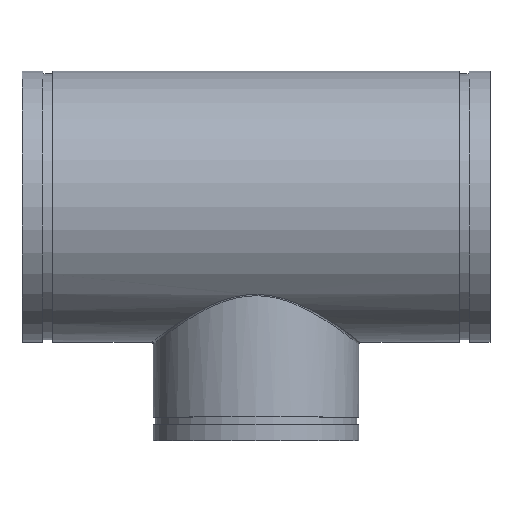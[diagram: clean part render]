
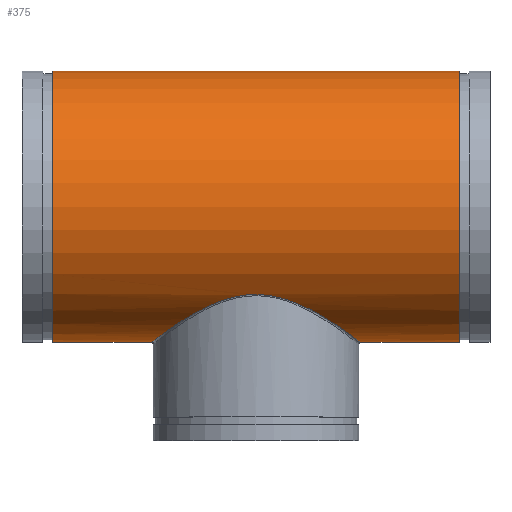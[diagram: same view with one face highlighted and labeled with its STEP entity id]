
A CAD part, top view. The second image highlights one B-rep face of the part: STEP entity #375.
In plain terms, the highlighted cylindrical face has radius 220.98 mm (diameter 441.96 mm), a full revolution.
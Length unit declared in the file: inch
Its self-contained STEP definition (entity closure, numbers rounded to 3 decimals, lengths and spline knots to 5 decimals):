
#54=FACE_BOUND('',#119,.T.);
#65=LINE('',#896,#76);
#76=VECTOR('',#483,8.7);
#87=CYLINDRICAL_SURFACE('',#415,8.7);
#98=FACE_OUTER_BOUND('',#118,.T.);
#118=EDGE_LOOP('',(#266,#267,#268,#269));
#119=EDGE_LOOP('',(#270));
#150=B_SPLINE_CURVE_WITH_KNOTS('',3,(#853,#854,#855,#856,#857,#858,#859,
#860,#861,#862,#863,#864,#865,#866,#867,#868,#869,#870,#871,#872,#873,#874,
#875,#876,#877,#878,#879,#880,#881,#882,#883,#884,#885,#886,#887,#888,#889,
#890,#891),.UNSPECIFIED.,.T.,.F.,(4,1,1,1,1,1,1,1,1,1,1,1,1,1,1,1,1,1,1,
1,1,1,1,1,1,1,1,1,1,1,1,1,1,1,1,1,4),(-107.14196,-105.22871,
-103.31546,-99.48896,-95.66247,-91.83597,
-86.73397,-84.18297,-81.63197,-79.08097,
-76.52997,-73.97897,-71.42797,-66.32598,
-61.22398,-58.67298,-56.12198,-53.57098,
-51.01998,-48.46898,-45.91798,-43.36698,
-40.81599,-35.71399,-30.61199,-29.97424,
-29.33649,-28.06099,-25.50999,-22.95899,
-20.40799,-15.30599,-11.4795,-7.653,
-3.8265,-1.91325,0.),.UNSPECIFIED.);
#154=CIRCLE('',#416,8.7);
#155=CIRCLE('',#417,8.7);
#182=VERTEX_POINT('',#806);
#185=VERTEX_POINT('',#893);
#186=VERTEX_POINT('',#895);
#219=EDGE_CURVE('',#182,#182,#150,.T.);
#220=EDGE_CURVE('',#185,#185,#154,.T.);
#221=EDGE_CURVE('',#185,#186,#65,.T.);
#222=EDGE_CURVE('',#186,#186,#155,.T.);
#266=ORIENTED_EDGE('',*,*,#220,.T.);
#267=ORIENTED_EDGE('',*,*,#221,.T.);
#268=ORIENTED_EDGE('',*,*,#222,.T.);
#269=ORIENTED_EDGE('',*,*,#221,.F.);
#270=ORIENTED_EDGE('',*,*,#219,.F.);
#375=ADVANCED_FACE('',(#98,#54),#87,.T.);
#415=AXIS2_PLACEMENT_3D('',#892,#479,#480);
#416=AXIS2_PLACEMENT_3D('',#894,#481,#482);
#417=AXIS2_PLACEMENT_3D('',#897,#484,#485);
#479=DIRECTION('center_axis',(-1.,0.,0.));
#480=DIRECTION('ref_axis',(0.,-1.,0.));
#481=DIRECTION('center_axis',(1.,0.,0.));
#482=DIRECTION('ref_axis',(0.,-1.,0.));
#483=DIRECTION('',(1.,0.,0.));
#484=DIRECTION('center_axis',(-1.,0.,0.));
#485=DIRECTION('ref_axis',(0.,-1.,0.));
#806=CARTESIAN_POINT('',(0.,-5.63351,-6.62975));
#853=CARTESIAN_POINT('Ctrl Pts',(0.,-5.63351,
-6.62975));
#854=CARTESIAN_POINT('Ctrl Pts',(0.26448,-5.63351,-6.62975));
#855=CARTESIAN_POINT('Ctrl Pts',(0.79314,-5.67017,-6.59887));
#856=CARTESIAN_POINT('Ctrl Pts',(1.81808,-5.87757,-6.41804));
#857=CARTESIAN_POINT('Ctrl Pts',(2.99475,-6.32623,-5.99446));
#858=CARTESIAN_POINT('Ctrl Pts',(4.21708,-6.98289,-5.22834));
#859=CARTESIAN_POINT('Ctrl Pts',(5.36357,-7.7129,-4.11623));
#860=CARTESIAN_POINT('Ctrl Pts',(6.14052,-8.26689,-2.84656));
#861=CARTESIAN_POINT('Ctrl Pts',(6.56621,-8.58074,-1.55133));
#862=CARTESIAN_POINT('Ctrl Pts',(6.73178,-8.70515,-0.52422));
#863=CARTESIAN_POINT('Ctrl Pts',(6.73199,-8.70521,0.524));
#864=CARTESIAN_POINT('Ctrl Pts',(6.56595,-8.58068,1.55161));
#865=CARTESIAN_POINT('Ctrl Pts',(6.24745,-8.34552,2.52194));
#866=CARTESIAN_POINT('Ctrl Pts',(5.64362,-7.91216,3.70842));
#867=CARTESIAN_POINT('Ctrl Pts',(4.60808,-7.21142,4.95051));
#868=CARTESIAN_POINT('Ctrl Pts',(3.28343,-6.46151,5.84767));
#869=CARTESIAN_POINT('Ctrl Pts',(2.05764,-5.96526,6.33802));
#870=CARTESIAN_POINT('Ctrl Pts',(1.05761,-5.69983,6.5742));
#871=CARTESIAN_POINT('Ctrl Pts',(0.00003,-5.60019,
6.65759));
#872=CARTESIAN_POINT('Ctrl Pts',(-1.05758,-5.69971,6.57429));
#873=CARTESIAN_POINT('Ctrl Pts',(-2.05764,-5.96554,6.33782));
#874=CARTESIAN_POINT('Ctrl Pts',(-2.9768,-6.3368,5.97072));
#875=CARTESIAN_POINT('Ctrl Pts',(-3.81321,-6.76214,5.48846));
#876=CARTESIAN_POINT('Ctrl Pts',(-4.81498,-7.35067,4.70249));
#877=CARTESIAN_POINT('Ctrl Pts',(-5.85105,-8.05322,3.46022));
#878=CARTESIAN_POINT('Ctrl Pts',(-6.41222,-8.46677,2.13055));
#879=CARTESIAN_POINT('Ctrl Pts',(-6.59792,-8.60489,1.29107));
#880=CARTESIAN_POINT('Ctrl Pts',(-6.65936,-8.65076,0.95187));
#881=CARTESIAN_POINT('Ctrl Pts',(-6.73189,-8.70513,0.34943));
#882=CARTESIAN_POINT('Ctrl Pts',(-6.73184,-8.70521,-0.52412));
#883=CARTESIAN_POINT('Ctrl Pts',(-6.56619,-8.58074,-1.55128));
#884=CARTESIAN_POINT('Ctrl Pts',(-6.14058,-8.26693,-2.84645));
#885=CARTESIAN_POINT('Ctrl Pts',(-5.36364,-7.71292,-4.1161));
#886=CARTESIAN_POINT('Ctrl Pts',(-4.21714,-6.98294,-5.22831));
#887=CARTESIAN_POINT('Ctrl Pts',(-2.99478,-6.32623,-5.99444));
#888=CARTESIAN_POINT('Ctrl Pts',(-1.81815,-5.87759,-6.41803));
#889=CARTESIAN_POINT('Ctrl Pts',(-0.79311,-5.67016,-6.59887));
#890=CARTESIAN_POINT('Ctrl Pts',(-0.26448,-5.63351,-6.62975));
#891=CARTESIAN_POINT('Ctrl Pts',(0.,-5.63351,
-6.62975));
#892=CARTESIAN_POINT('Origin',(15.,0.,0.));
#893=CARTESIAN_POINT('',(-13.035,8.7,0.));
#894=CARTESIAN_POINT('Origin',(-13.035,0.,0.));
#895=CARTESIAN_POINT('',(13.035,8.7,0.));
#896=CARTESIAN_POINT('',(15.,8.7,0.));
#897=CARTESIAN_POINT('Origin',(13.035,0.,0.));
